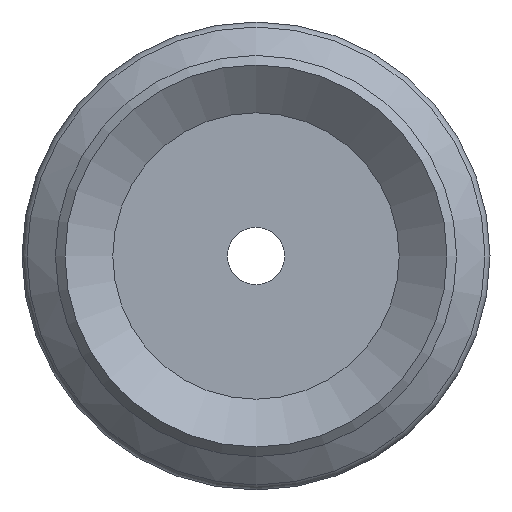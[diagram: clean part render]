
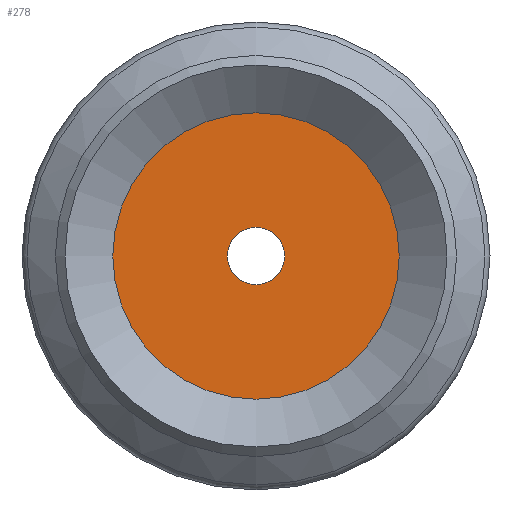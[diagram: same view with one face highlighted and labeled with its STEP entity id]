
A CAD part, front view. The second image highlights one B-rep face of the part: STEP entity #278.
In plain terms, the highlighted planar face has unit normal (0, -1, 0).
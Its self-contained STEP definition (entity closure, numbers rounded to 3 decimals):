
#278=ADVANCED_FACE('',(#350,#351),#352,.T.);
#350=FACE_BOUND('',#495,.T.);
#351=FACE_OUTER_BOUND('',#496,.T.);
#352=PLANE('',#497);
#495=EDGE_LOOP('',(#657));
#496=EDGE_LOOP('',(#658));
#497=AXIS2_PLACEMENT_3D('',#659,#660,#661);
#657=ORIENTED_EDGE('',*,*,#916,.F.);
#658=ORIENTED_EDGE('',*,*,#915,.T.);
#659=CARTESIAN_POINT('',(0.6,-4.0,0.0));
#660=DIRECTION('',(0.0,-1.0,0.0));
#661=DIRECTION('',(0.0,0.0,-1.0));
#915=EDGE_CURVE('',#993,#993,#994,.T.);
#916=EDGE_CURVE('',#995,#995,#996,.T.);
#993=VERTEX_POINT('',#1119);
#994=CIRCLE('',#1120,3.0);
#995=VERTEX_POINT('',#1121);
#996=CIRCLE('',#1122,0.6);
#1119=CARTESIAN_POINT('',(0.0,-4.0,-3.0));
#1120=AXIS2_PLACEMENT_3D('',#1290,#1291,#1292);
#1121=CARTESIAN_POINT('',(0.0,-4.0,-0.6));
#1122=AXIS2_PLACEMENT_3D('',#1293,#1294,#1295);
#1290=CARTESIAN_POINT('',(0.0,-4.0,0.0));
#1291=DIRECTION('',(0.0,-1.0,0.0));
#1292=DIRECTION('',(0.0,0.0,-1.0));
#1293=CARTESIAN_POINT('',(0.0,-4.0,0.0));
#1294=DIRECTION('',(0.0,-1.0,0.0));
#1295=DIRECTION('',(0.0,0.0,-1.0));
